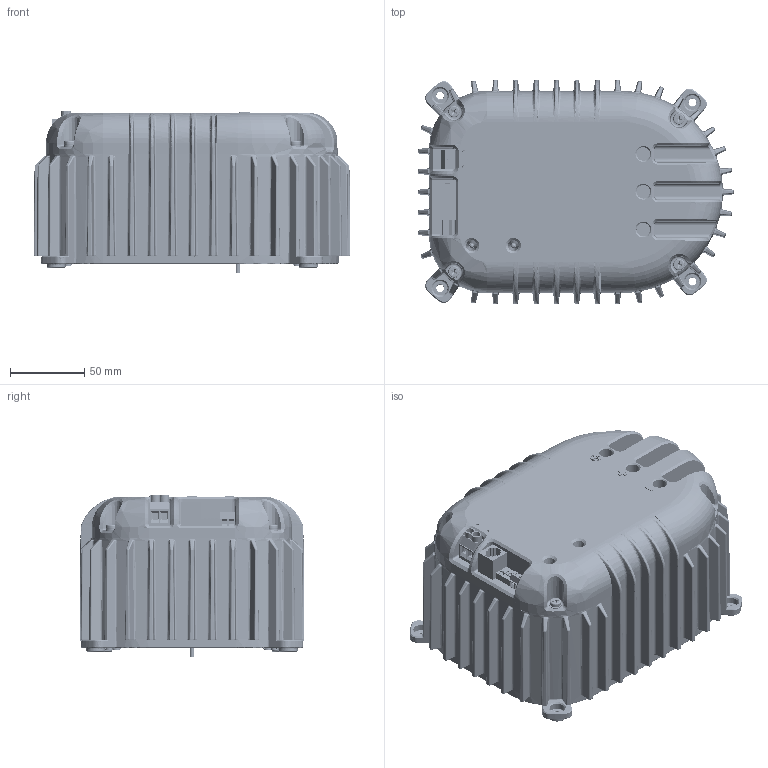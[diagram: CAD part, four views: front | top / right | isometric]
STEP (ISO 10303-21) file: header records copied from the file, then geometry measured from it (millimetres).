
FILE_DESCRIPTION( ( 'Unknown' ), '1' );
FILE_NAME( 'S:/tech support/Products/SureSine300/CAD Files/SureSine300.stp', 'Unknown', ( 'Unknown' ), ( 'Unknown' ), 'PSStep 10.1', 'Unknown', ' ' );
FILE_SCHEMA( ( 'AUTOMOTIVE_DESIGN { 1 0 10303 214 1 1 1 1 }' ) );
Length unit declared in the file: millimetre
Products named in the file (19): Assem1; Proto6 - control_board; 2_POS_Screwclamp_.25in_pitch; 4_pos_DIP_SW; 2_POS_Screwclamp_5mm_pitch; T1 Bi-color LED; T1 Bi-color LED-oa0; AC_current_sensor; RJ11-180degree; Proto6-control_board; Proto4-Base_Plate; Washer - M3_star_washer; Screw - 10mm_M3x0.5mm_Flat_head; Screw - M4x12mmx0.7_panhead; Screw - M4x12mmx0.7_panhead-oa1; Screw - M4x12mmx0.7_panhead-oa2; Screw - M4x12mmx0.7_panhead-oa3; SI300 - heatsink; SI300 - Lid
Bounding box: 212.63 x 150.99 x 108.18 mm (x, y, z)
Surface area: 612898.1 mm2
Topology: 48 solids, 52 shells, 6968 faces, 17325 edges, 10372 vertices
Faces by surface type: plane 2949, bspline 1876, cylinder 1727, torus 204, cone 110, extrusion 102
Full cylindrical faces by diameter (mm): 0.508 x42, 0.559 x24, 0.711 x12, 0.762 x30, 0.889 x24, 0.965 x6, 1.016 x18, 1.651 x12, 2.032 x6, 2.489 x8, 2.54 x6, 2.794 x30, 2.896 x5, 2.997 x6, 3.175 x6, 3.81 x11, 3.937 x120, 4.064 x6, 4.953 x5, 5.004 x3, 5.08 x8, 5.207 x6, 6.604 x2, 7.366 x2, 7.62 x4, 7.696 x8, 8.255 x8, 9.144 x6, 10.16 x8, 11.887 x3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
Entity records: 162822 total; most frequent: CARTESIAN_POINT 74652, ORIENTED_EDGE 14054, DIRECTION 11864, EDGE_CURVE 7027, VERTEX_POINT 4367, AXIS2_PLACEMENT_3D 4298, EDGE_LOOP 3432, VECTOR 3268
